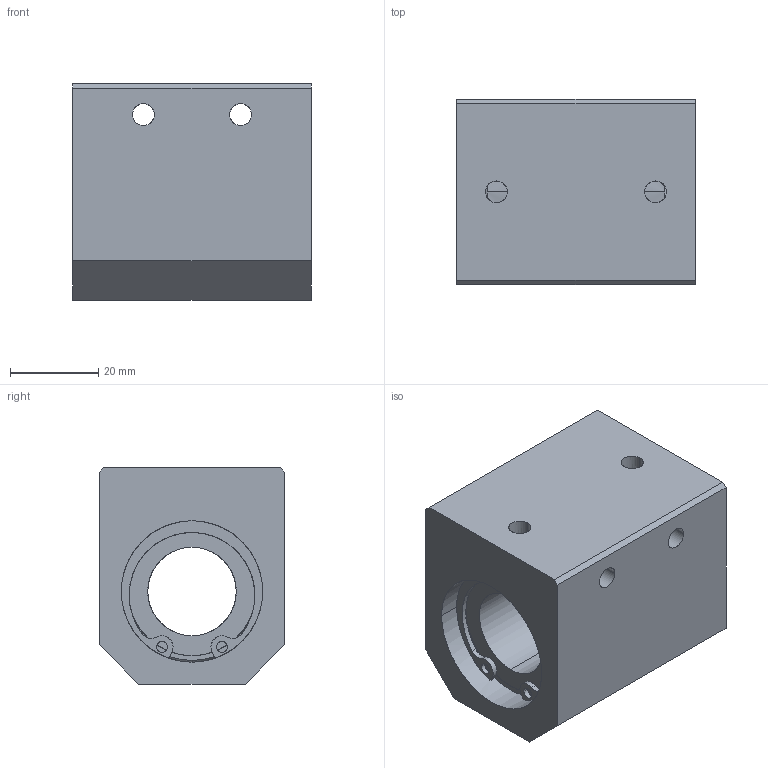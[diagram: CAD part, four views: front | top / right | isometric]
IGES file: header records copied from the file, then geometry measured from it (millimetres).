
Global section: file name: No Iges File Name specified; native system: AutoDesk Inventor R10; preprocessor: AutoDesk Inventor Iges Exporter R10; author: No Author specified; organization: No Organization specified; date: 20101213.094024; units: millimetre
Bounding box: 54 x 42 x 49 mm (x, y, z)
Surface area: 19844.5 mm2 (no closed solid volume)
Topology: 0 solids, 0 shells, 102 faces, 808 edges, 808 vertices
Faces by surface type: bspline 102
